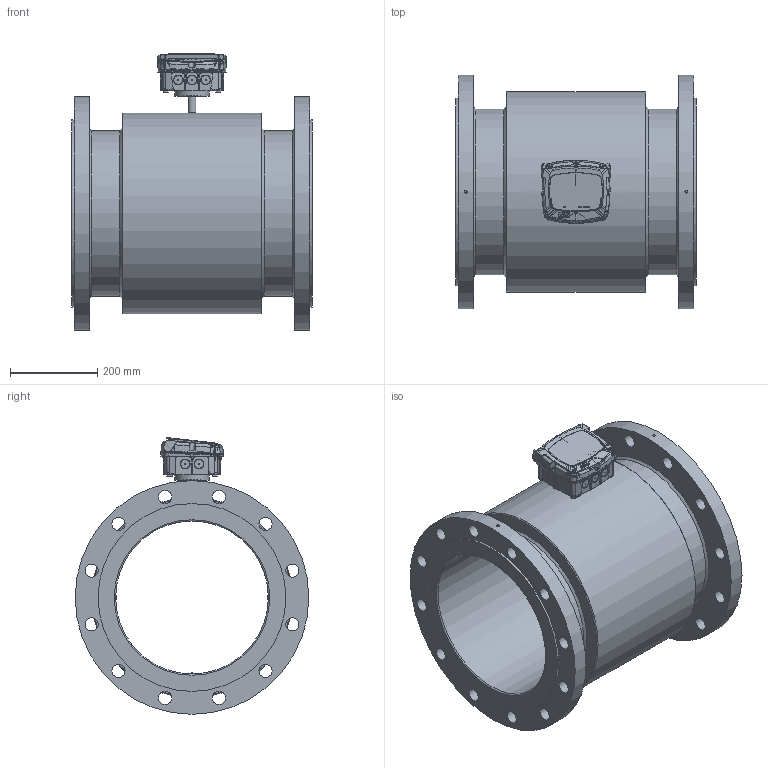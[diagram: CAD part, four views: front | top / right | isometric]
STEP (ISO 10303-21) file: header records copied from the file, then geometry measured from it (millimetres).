
FILE_DESCRIPTION((''),'2;1');
FILE_NAME('C:\Users\Claus\Dropbox\Projects 2011 - 2012\MJK Automation AS\DN 350 - ANSI B16,5.stp','2014-10-24T15:13:50',('Claus'),(''),'Autodesk Inventor 2013','Autodesk Inventor 2013','');
FILE_SCHEMA(('AUTOMOTIVE_DESIGN { 1 0 10303 214 1 1 1 1 }'));
Length unit declared in the file: millimetre
Products named in the file (7): DN 350 - ANSI B16,5; FC_MagFlux_assembly_r1; CH Bund ml; FC Top rev 06.04; CH 03.02; Electrode group DN15 - DN32
Assembly tree (8 placements, depth 3):
  DN 350 - ANSI B16,5
    DN 350 - ANSI B16,5
    FC_MagFlux_assembly_r1
      CH Bund ml
      FC Top rev 06.04
      CH 03.02
    Electrode group DN15 - DN32  x3
Bounding box: 550 x 535 x 633.34 mm (x, y, z)
Volume: 34064654.6 mm3; surface area: 2238986.3 mm2
Topology: 10 solids, 10 shells, 2943 faces, 8018 edges, 5219 vertices
Faces by surface type: bspline 1752, plane 810, cylinder 218, cone 123, torus 25, revolution 9, sphere 6
Full cylindrical faces by diameter (mm): 2.5 x3, 3 x6, 4 x1, 6 x2, 6.5 x4, 7.042 x4, 8 x3, 8.048 x4, 12.072 x4, 15 x1, 18 x1, 18.108 x1, 30 x24, 64 x1, 350 x1, 380 x2, 430 x2, 459 x1, 535 x2
Entity records: 234332 total; most frequent: CARTESIAN_POINT 171604, ORIENTED_EDGE 15528, DIRECTION 7805, EDGE_CURVE 7764, VERTEX_POINT 5157, EDGE_LOOP 3305, VECTOR 3112, LINE 3112
